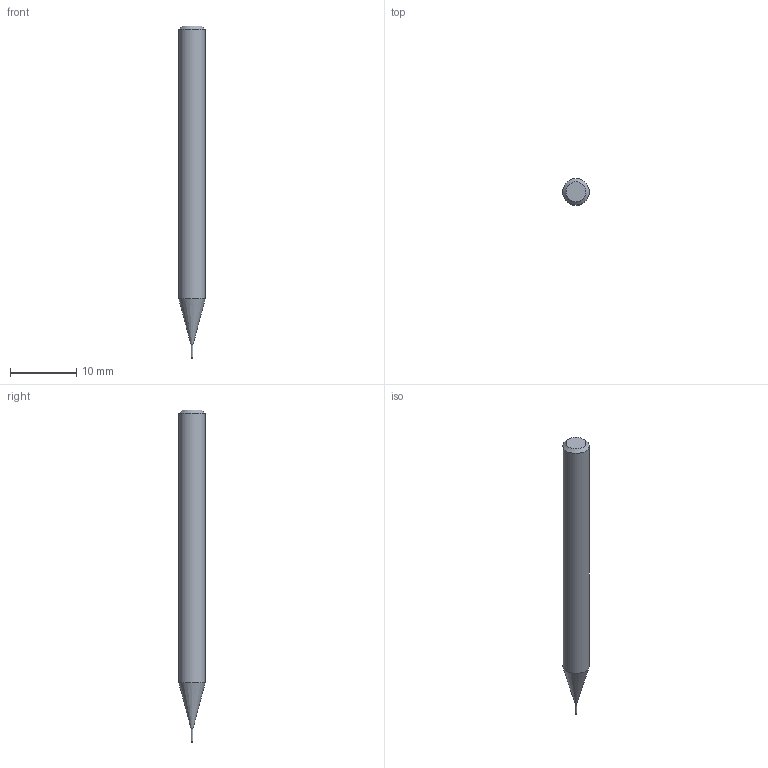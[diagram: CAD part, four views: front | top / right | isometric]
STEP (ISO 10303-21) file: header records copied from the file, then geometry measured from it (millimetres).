
FILE_DESCRIPTION((''),'2;1');
FILE_NAME('C:\Users\nsx150\AppData\Local\Temp\Mastercam 2021\LJSIDMOTM8\TEMP.step','2021-08-03T14:03:30',(''),(''),'STEP Write','Mastercam 2021 ... CNC Software, Inc.','');
FILE_SCHEMA(('AUTOMOTIVE_DESIGN'));
Length unit declared in the file: millimetre
Products named in the file (1): None
Bounding box: 4 x 4 x 50 mm (x, y, z)
Volume: 546 mm3; surface area: 574.9 mm2
Topology: 2 solids, 2 shells, 10 faces, 14 edges, 8 vertices
Faces by surface type: plane 4, cylinder 3, cone 2, torus 1
Full cylindrical faces by diameter (mm): 0.285 x1, 0.3 x1, 4 x1
Entity records: 232 total; most frequent: DIRECTION 40, CARTESIAN_POINT 28, AXIS2_PLACEMENT_3D 20, ORIENTED_EDGE 16, EDGE_LOOP 16, STYLED_ITEM 13, ADVANCED_FACE 10, FACE_BOUND 10
